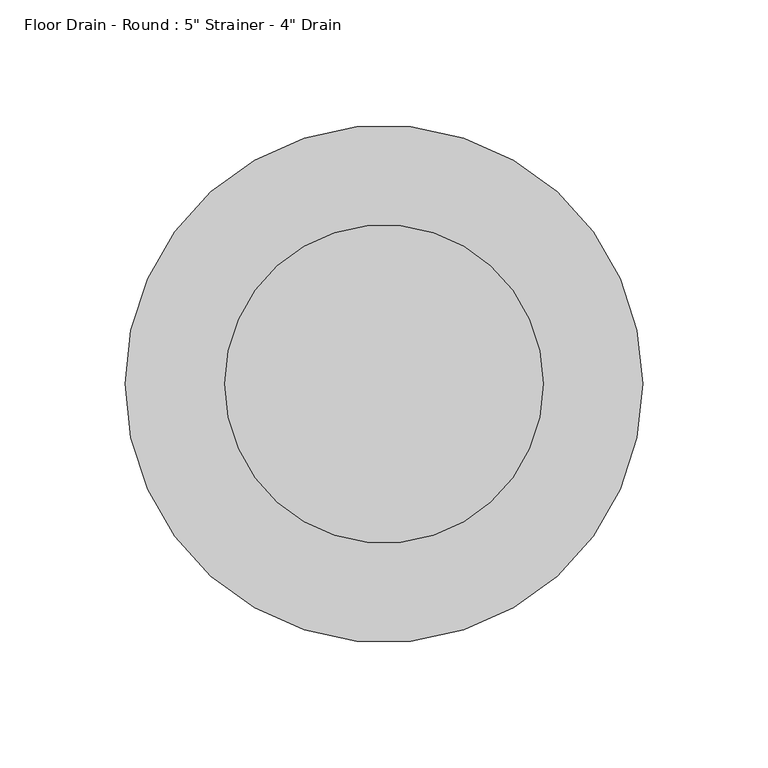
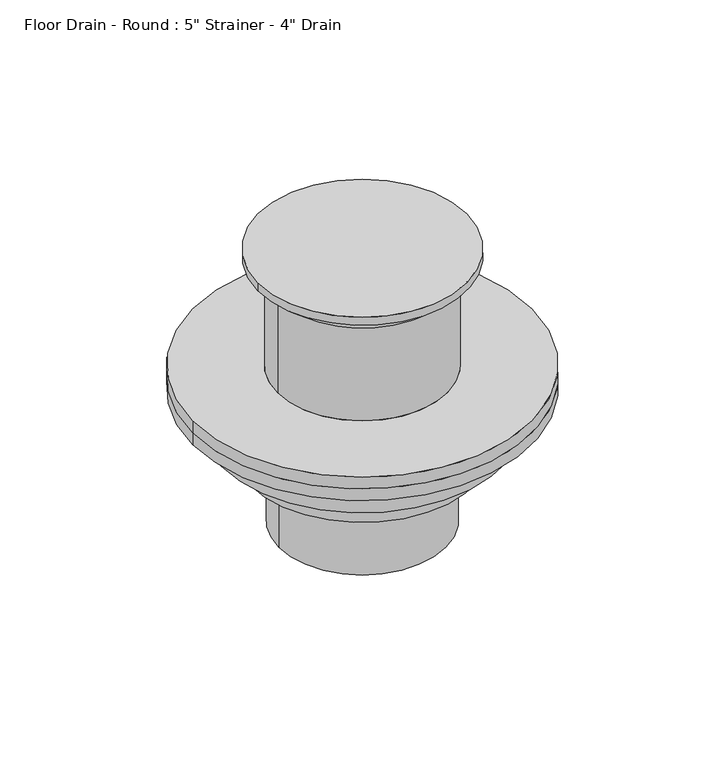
"""IFC4 building model written with IfcOpenShell, lengths in millimetres: flow terminal geometry."""

from ifc_helpers import new_model, si_unit, frame, origin, place, context, project, spatial, polyline, circle_curve, source, transform, mapped, element, save
from ifc_brep_helpers import plane_surface, cylinder_surface, revolved_surface, advanced_brep


def flow_terminal_5c41af1d(model_context):
    return source(origin(), model_context, "Body", "AdvancedBrep", [
        advanced_brep(
        [(103.1875, 0.0, -74.93), (-103.1875, 0.0, -74.93), (-51.59375, 0.0, -74.93), (51.59375, 0.0, -74.93), (103.1875, 0.0, -82.55), (-103.1875, 0.0, -82.55), (51.59375, 0.0, -15.24), (-51.59375, 0.0, -15.24), (-63.5, 0.0, -5.08), (63.5, 0.0, -5.08), (63.5, 0.0, 0.0), (-63.5, 0.0, 0.0)],
        [
            (0, 1, circle_curve(frame((0.0, 0.0, -74.93), z_axis=(0.0, 0.0, 1.0), x_axis=(-1.0, 0.0, 0.0)), 103.1875)),
            (1, 0, circle_curve(frame((0.0, 0.0, -74.93), z_axis=(0.0, 0.0, 1.0), x_axis=(-1.0, 0.0, 0.0)), 103.1875)),
            (2, 3, circle_curve(frame((0.0, 0.0, -74.93), z_axis=(0.0, 0.0, -1.0), x_axis=(-1.0, 0.0, 0.0)), 51.59375)),
            (3, 2, circle_curve(frame((0.0, 0.0, -74.93), z_axis=(0.0, 0.0, -1.0), x_axis=(-1.0, 0.0, 0.0)), 51.59375)),
            (4, 5, circle_curve(frame((0.0, 0.0, -82.55), z_axis=(0.0, 0.0, -1.0), x_axis=(-1.0, 0.0, 0.0)), 103.1875)),
            (5, 4, circle_curve(frame((0.0, 0.0, -82.55), z_axis=(0.0, 0.0, -1.0), x_axis=(-1.0, 0.0, 0.0)), 103.1875)),
            (0, 4),
            (5, 1),
            (6, 3),
            (2, 7),
            (7, 6, circle_curve(frame((0.0, 0.0, -15.24), z_axis=(0.0, 0.0, -1.0), x_axis=(-1.0, 0.0, 0.0)), 51.59375)),
            (6, 7, circle_curve(frame((0.0, 0.0, -15.24), z_axis=(0.0, 0.0, -1.0), x_axis=(-1.0, 0.0, 0.0)), 51.59375)),
            (7, 8),
            (8, 9, circle_curve(frame((0.0, 0.0, -5.08), z_axis=(0.0, 0.0, -1.0), x_axis=(-1.0, 0.0, 0.0)), 63.5)),
            (9, 6),
            (9, 8, circle_curve(frame((0.0, 0.0, -5.08), z_axis=(0.0, 0.0, -1.0), x_axis=(-1.0, 0.0, 0.0)), 63.5)),
            (10, 11, circle_curve(frame((0.0, 0.0, 0.0), z_axis=(0.0, 0.0, 1.0), x_axis=(-1.0, 0.0, 0.0)), 63.5)),
            (11, 10, circle_curve(frame((0.0, 0.0, 0.0), z_axis=(0.0, 0.0, 1.0), x_axis=(-1.0, 0.0, 0.0)), 63.5)),
            (10, 9),
            (8, 11),
        ],
        [
            plane_surface(frame((-103.1875, 0.0, -74.93), z_axis=(0.0, 0.0, 1.0), x_axis=(0.0, -1.0, 0.0))),
            plane_surface(frame((-103.1875, 0.0, -82.55), z_axis=(0.0, 0.0, -1.0), x_axis=(0.0, 1.0, 0.0))),
            cylinder_surface(frame((0.0, 0.0, -82.55), z_axis=(0.0, 0.0, 1.0), x_axis=(-1.0, 0.0, 0.0)), 103.1875),
            cylinder_surface(frame((0.0, 0.0, -74.93), z_axis=(0.0, 0.0, 1.0), x_axis=(-1.0, 0.0, 0.0)), 51.59375),
            revolved_surface(polyline([(-63.5, 0.0, -5.08), (-51.59375, 0.0, -15.24)]), (0.0, 0.0, 44.45), (0.0, 0.0, -1.0)),
            plane_surface(frame((-63.5, 0.0, 0.0), z_axis=(0.0, 0.0, 1.0), x_axis=(0.0, -1.0, 0.0))),
            cylinder_surface(frame((0.0, 0.0, -5.08), z_axis=(0.0, 0.0, 1.0), x_axis=(-1.0, 0.0, 0.0)), 63.5),
        ],
        [
            (0, [[1, 2], [3, 4]]),
            (1, [[5, 6]]),
            (2, [[-1, 7, -6, 8]]),
            (2, [[-2, -8, -5, -7]]),
            (3, [[9, -3, 10, 11]]),
            (3, [[-9, 12, -10, -4]]),
            (4, [[13, 14, 15, -11]]),
            (4, [[-13, -12, -15, 16]]),
            (5, [[17, 18]]),
            (6, [[-17, 19, -14, 20]]),
            (6, [[-18, -20, -16, -19]]),
        ],
    ),
        advanced_brep(
        [(50.8, 0.0, -174.625), (-50.8, 0.0, -174.625), (-50.8, 0.0, -128.5875), (50.8, 0.0, -128.5875), (68.2625, 0.0, -128.5875), (-68.2625, 0.0, -128.5875), (-68.2625, 0.0, -110.1725), (68.2625, 0.0, -110.1725), (85.725, 0.0, -110.1725), (-85.725, 0.0, -110.1725), (-85.725, 0.0, -90.17), (85.725, 0.0, -90.17), (103.1875, 0.0, -82.55), (-103.1875, 0.0, -82.55), (103.1875, 0.0, -90.17), (-103.1875, 0.0, -90.17)],
        [
            (0, 1, circle_curve(frame((0.0, 0.0, -174.625), z_axis=(0.0, 0.0, -1.0), x_axis=(-1.0, 0.0, 0.0)), 50.8)),
            (1, 0, circle_curve(frame((0.0, 0.0, -174.625), z_axis=(0.0, 0.0, -1.0), x_axis=(-1.0, 0.0, 0.0)), 50.8)),
            (1, 2),
            (2, 3, circle_curve(frame((0.0, 0.0, -128.5875), z_axis=(0.0, 0.0, -1.0), x_axis=(-1.0, 0.0, 0.0)), 50.8)),
            (3, 0),
            (3, 2, circle_curve(frame((0.0, 0.0, -128.5875), z_axis=(0.0, 0.0, -1.0), x_axis=(-1.0, 0.0, 0.0)), 50.8)),
            (4, 5, circle_curve(frame((0.0, 0.0, -128.5875), z_axis=(0.0, 0.0, -1.0), x_axis=(-1.0, 0.0, 0.0)), 68.2625)),
            (5, 4, circle_curve(frame((0.0, 0.0, -128.5875), z_axis=(0.0, 0.0, -1.0), x_axis=(-1.0, 0.0, 0.0)), 68.2625)),
            (5, 6),
            (6, 7, circle_curve(frame((0.0, 0.0, -110.1725), z_axis=(0.0, 0.0, -1.0), x_axis=(-1.0, 0.0, 0.0)), 68.2625)),
            (7, 4),
            (7, 6, circle_curve(frame((0.0, 0.0, -110.1725), z_axis=(0.0, 0.0, -1.0), x_axis=(-1.0, 0.0, 0.0)), 68.2625)),
            (8, 9, circle_curve(frame((0.0, 0.0, -110.1725), z_axis=(0.0, 0.0, -1.0), x_axis=(-1.0, 0.0, 0.0)), 85.725)),
            (9, 8, circle_curve(frame((0.0, 0.0, -110.1725), z_axis=(0.0, 0.0, -1.0), x_axis=(-1.0, 0.0, 0.0)), 85.725)),
            (9, 10),
            (10, 11, circle_curve(frame((0.0, 0.0, -90.17), z_axis=(0.0, 0.0, -1.0), x_axis=(-1.0, 0.0, 0.0)), 85.725)),
            (11, 8),
            (11, 10, circle_curve(frame((0.0, 0.0, -90.17), z_axis=(0.0, 0.0, -1.0), x_axis=(-1.0, 0.0, 0.0)), 85.725)),
            (12, 13, circle_curve(frame((0.0, 0.0, -82.55), z_axis=(0.0, 0.0, 1.0), x_axis=(-1.0, 0.0, 0.0)), 103.1875)),
            (13, 12, circle_curve(frame((0.0, 0.0, -82.55), z_axis=(0.0, 0.0, 1.0), x_axis=(-1.0, 0.0, 0.0)), 103.1875)),
            (14, 15, circle_curve(frame((0.0, 0.0, -90.17), z_axis=(0.0, 0.0, -1.0), x_axis=(-1.0, 0.0, 0.0)), 103.1875)),
            (15, 14, circle_curve(frame((0.0, 0.0, -90.17), z_axis=(0.0, 0.0, -1.0), x_axis=(-1.0, 0.0, 0.0)), 103.1875)),
            (12, 14),
            (15, 13),
        ],
        [
            plane_surface(frame((-50.8, 0.0, -174.625), z_axis=(0.0, 0.0, -1.0), x_axis=(0.0, 1.0, 0.0))),
            cylinder_surface(frame((0.0, 0.0, -174.625), z_axis=(0.0, 0.0, 1.0), x_axis=(-1.0, 0.0, 0.0)), 50.8),
            plane_surface(frame((-68.2625, 0.0, -128.5875), z_axis=(0.0, 0.0, -1.0), x_axis=(0.0, 1.0, 0.0))),
            cylinder_surface(frame((0.0, 0.0, -128.5875), z_axis=(0.0, 0.0, 1.0), x_axis=(-1.0, 0.0, 0.0)), 68.2625),
            plane_surface(frame((-85.725, 0.0, -110.1725), z_axis=(0.0, 0.0, -1.0), x_axis=(0.0, 1.0, 0.0))),
            cylinder_surface(frame((0.0, 0.0, -110.1725), z_axis=(0.0, 0.0, 1.0), x_axis=(-1.0, 0.0, 0.0)), 85.725),
            plane_surface(frame((-103.1875, 0.0, -82.55), z_axis=(0.0, 0.0, 1.0), x_axis=(0.0, -1.0, 0.0))),
            plane_surface(frame((-103.1875, 0.0, -90.17), z_axis=(0.0, 0.0, -1.0), x_axis=(0.0, 1.0, 0.0))),
            cylinder_surface(frame((0.0, 0.0, -90.17), z_axis=(0.0, 0.0, 1.0), x_axis=(-1.0, 0.0, 0.0)), 103.1875),
        ],
        [
            (0, [[1, 2]]),
            (1, [[-2, 3, 4, 5]]),
            (1, [[-1, -5, 6, -3]]),
            (2, [[7, 8], [-4, -6]]),
            (3, [[-8, 9, 10, 11]]),
            (3, [[-7, -11, 12, -9]]),
            (4, [[13, 14], [-10, -12]]),
            (5, [[-14, 15, 16, 17]]),
            (5, [[-13, -17, 18, -15]]),
            (6, [[19, 20]]),
            (7, [[21, 22], [-16, -18]]),
            (8, [[-19, 23, -22, 24]]),
            (8, [[-20, -24, -21, -23]]),
        ],
    ),
    ])


if __name__ == "__main__":
    model = new_model("IFC4")
    model_context = context("Model", 3, world=origin())
    ifc_project = project(units=[si_unit("LENGTHUNIT", "METRE", prefix="MILLI")], contexts=[model_context])
    site = spatial("IfcSite", under=ifc_project)
    building = spatial("IfcBuilding", under=site)
    placement = place(None, origin())
    flow_terminal_shape = flow_terminal_5c41af1d(model_context)
    element("IfcFlowTerminal", 1, ObjectType="Floor Drain - Round : 5\" Strainer - 4\" Drain", at=placement, inside=building, context=model_context, shape_type="MappedRepresentation", body=[
        mapped(flow_terminal_shape, transform((0.0, 0.0, 0.0), x_axis=(1.0, 0.0, 0.0), y_axis=(0.0, 1.0, 0.0), z_axis=(0.0, 0.0, 1.0))),
    ])
    save(model, "model.ifc")
